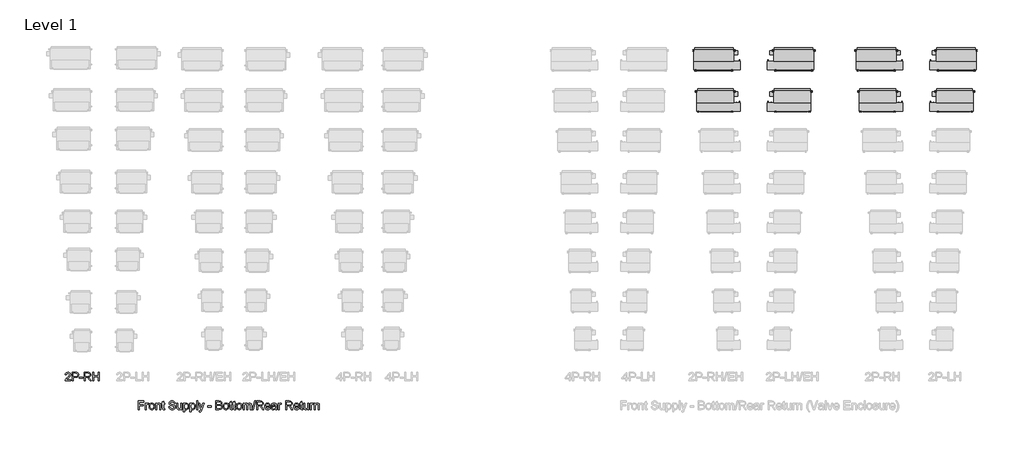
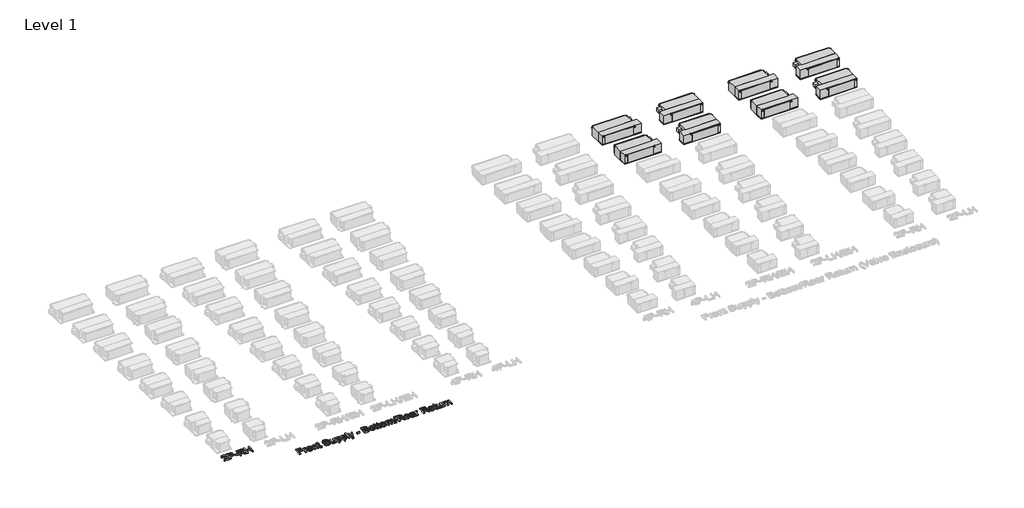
# One storey, part 2 of 5: 10 proxies.
"""IFC4 building model written with IfcOpenShell, lengths in millimetres."""

from ifc_helpers import new_model, si_unit, origin, origin_with_axes, place, context, project, spatial, polyline, outline, extrude, transform, mapped, element, save
from components import mechanical_equipment_6b4c8f92, mechanical_equipment_af64897e, mechanical_equipment_110eea27, mechanical_equipment_c8bb1e13

model = new_model("IFC4")

# Units and contexts
model_context = context("Model", 3, world=origin())
ifc_project = project(units=[si_unit("LENGTHUNIT", "METRE", prefix="MILLI")], contexts=[model_context])

# Site, building, storey
site = spatial("IfcSite", under=ifc_project)
building = spatial("IfcBuilding", under=site)
storey = spatial("IfcBuildingStorey", under=building, Name="Level 1", Elevation=0.0)

# Proxies
placement = place(None, origin())
mechanical_equipment_shape = mechanical_equipment_6b4c8f92(model_context)
element("IfcBuildingElementProxy", 1, Name="Concealed_High_Capacity_Horizontal_Fan_Coil_Unit_With_Plenum_-_42DCA_-_CARRIER_-_2-Pipe_Cool-EHeat_ValveEnclosure_RH_2022 : Size 18 - 277v/60Hz/1Ph - 6 Row 12.0kW", ObjectType="Concealed_High_Capacity_Horizontal_Fan_Coil_Unit_With_Plenum_-_42DCA_-_CARRIER_-_2-Pipe_Cool-EHeat_ValveEnclosure_RH_2022 : Size 18 - 277v/60Hz/1Ph - 6 Row 12.0kW", at=placement, inside=storey, context=model_context, shape_type="MappedRepresentation", body=[
    mapped(mechanical_equipment_shape, transform((-6820.3658953, 549.3431202, 0.0), x_axis=(1.0, 0.0, 0.0), y_axis=(0.0, 1.0, 0.0), z_axis=(0.0, 0.0, 1.0))),
])
mechanical_equipment_2_shape = mechanical_equipment_af64897e(model_context)
element("IfcBuildingElementProxy", 2, Name="Concealed_High_Capacity_Horizontal_Fan_Coil_Unit_With_Plenum_-_42DCA_-_CARRIER_-_2-Pipe_Cool-EHeat_ValveEnclosure_RH_2022 : Size 20 - 277v/60Hz/1Ph - 6 Row 14.0kW", ObjectType="Concealed_High_Capacity_Horizontal_Fan_Coil_Unit_With_Plenum_-_42DCA_-_CARRIER_-_2-Pipe_Cool-EHeat_ValveEnclosure_RH_2022 : Size 20 - 277v/60Hz/1Ph - 6 Row 14.0kW", at=placement, inside=storey, context=model_context, shape_type="MappedRepresentation", body=[
    mapped(mechanical_equipment_2_shape, transform((-6871.1658953, 2015.3332762, 0.0), x_axis=(1.0, 0.0, 0.0), y_axis=(0.0, 1.0, 0.0), z_axis=(0.0, 0.0, 1.0))),
])
mechanical_equipment_3_shape = mechanical_equipment_110eea27(model_context)
element("IfcBuildingElementProxy", 3, Name="Concealed_High_Capacity_Horizontal_Fan_Coil_Unit_With_Plenum_-_42DCA_-_CARRIER_-_2-Pipe_Cool-EHeat_ValveEnclosure_LH_2022 : Size 18 - 277v/60Hz/1Ph - 6 Row 12.0kW", ObjectType="Concealed_High_Capacity_Horizontal_Fan_Coil_Unit_With_Plenum_-_42DCA_-_CARRIER_-_2-Pipe_Cool-EHeat_ValveEnclosure_LH_2022 : Size 18 - 277v/60Hz/1Ph - 6 Row 12.0kW", at=placement, inside=storey, context=model_context, shape_type="MappedRepresentation", body=[
    mapped(mechanical_equipment_3_shape, transform((-4077.1658953, 549.3431202, 0.0), x_axis=(1.0, 0.0, 0.0), y_axis=(0.0, 1.0, 0.0), z_axis=(0.0, 0.0, 1.0))),
])
mechanical_equipment_4_shape = mechanical_equipment_c8bb1e13(model_context)
element("IfcBuildingElementProxy", 4, Name="Concealed_High_Capacity_Horizontal_Fan_Coil_Unit_With_Plenum_-_42DCA_-_CARRIER_-_2-Pipe_Cool-EHeat_ValveEnclosure_LH_2022 : Size 20 - 277v/60Hz/1Ph - 6 Row 14.0kW", ObjectType="Concealed_High_Capacity_Horizontal_Fan_Coil_Unit_With_Plenum_-_42DCA_-_CARRIER_-_2-Pipe_Cool-EHeat_ValveEnclosure_LH_2022 : Size 20 - 277v/60Hz/1Ph - 6 Row 14.0kW", at=placement, inside=storey, context=model_context, shape_type="MappedRepresentation", body=[
    mapped(mechanical_equipment_4_shape, transform((-4026.3658953, 2015.3332762, 0.0), x_axis=(1.0, 0.0, 0.0), y_axis=(0.0, 1.0, 0.0), z_axis=(0.0, 0.0, 1.0))),
])
element("IfcBuildingElementProxy", 5, Name="Concealed_High_Capacity_Horizontal_Fan_Coil_Unit_With_Plenum_-_42DCA_-_CARRIER_-_2-Pipe_Cool_ValveEnclosure_RH_2022 : Size 18 - 277v/60Hz/1Ph - 6 Row", ObjectType="Concealed_High_Capacity_Horizontal_Fan_Coil_Unit_With_Plenum_-_42DCA_-_CARRIER_-_2-Pipe_Cool_ValveEnclosure_RH_2022 : Size 18 - 277v/60Hz/1Ph - 6 Row", at=placement, inside=storey, context=model_context, shape_type="MappedRepresentation", body=[
    mapped(mechanical_equipment_shape, transform((-1029.1658953, 549.3431202, 0.0), x_axis=(1.0, 0.0, 0.0), y_axis=(0.0, 1.0, 0.0), z_axis=(0.0, 0.0, 1.0))),
])
element("IfcBuildingElementProxy", 6, Name="Concealed_High_Capacity_Horizontal_Fan_Coil_Unit_With_Plenum_-_42DCA_-_CARRIER_-_2-Pipe_Cool_ValveEnclosure_RH_2022 : Size 20 - 277v/60Hz/1Ph - 6 Row", ObjectType="Concealed_High_Capacity_Horizontal_Fan_Coil_Unit_With_Plenum_-_42DCA_-_CARRIER_-_2-Pipe_Cool_ValveEnclosure_RH_2022 : Size 20 - 277v/60Hz/1Ph - 6 Row", at=placement, inside=storey, context=model_context, shape_type="MappedRepresentation", body=[
    mapped(mechanical_equipment_2_shape, transform((-1079.9658953, 2015.3332762, 0.0), x_axis=(1.0, 0.0, 0.0), y_axis=(0.0, 1.0, 0.0), z_axis=(0.0, 0.0, 1.0))),
])
element("IfcBuildingElementProxy", 7, Name="Concealed_High_Capacity_Horizontal_Fan_Coil_Unit_With_Plenum_-_42DCA_-_CARRIER_-_2-Pipe_Cool_ValveEnclosure_LH_2022 : Size 18 - 277v/60Hz/1Ph - 6 Row", ObjectType="Concealed_High_Capacity_Horizontal_Fan_Coil_Unit_With_Plenum_-_42DCA_-_CARRIER_-_2-Pipe_Cool_ValveEnclosure_LH_2022 : Size 18 - 277v/60Hz/1Ph - 6 Row", at=placement, inside=storey, context=model_context, shape_type="MappedRepresentation", body=[
    mapped(mechanical_equipment_3_shape, transform((1714.0341047, 549.3431202, 0.0), x_axis=(1.0, 0.0, 0.0), y_axis=(0.0, 1.0, 0.0), z_axis=(0.0, 0.0, 1.0))),
])
element("IfcBuildingElementProxy", 8, Name="Concealed_High_Capacity_Horizontal_Fan_Coil_Unit_With_Plenum_-_42DCA_-_CARRIER_-_2-Pipe_Cool_ValveEnclosure_LH_2022 : Size 20 - 277v/60Hz/1Ph - 6 Row", ObjectType="Concealed_High_Capacity_Horizontal_Fan_Coil_Unit_With_Plenum_-_42DCA_-_CARRIER_-_2-Pipe_Cool_ValveEnclosure_LH_2022 : Size 20 - 277v/60Hz/1Ph - 6 Row", at=placement, inside=storey, context=model_context, shape_type="MappedRepresentation", body=[
    mapped(mechanical_equipment_4_shape, transform((1764.8341047, 2015.3332762, 0.0), x_axis=(1.0, 0.0, 0.0), y_axis=(0.0, 1.0, 0.0), z_axis=(0.0, 0.0, 1.0))),
])
element("IfcBuildingElementProxy", 9, Name="24\" Arial", ObjectType="24\" Arial", at=placement, inside=storey, context=model_context, shape_type="SweptSolid", body=[
    extrude(outline(polyline([(-29653.5391357, -9425.9108404), (-29653.5391357, -9463.9817271), (-29853.4112912, -9463.9817271), (-29849.3216451, -9437.7336353), (-29839.9340485, -9417.2203425), (-29826.1965557, -9397.3204967), (-29806.3245938, -9376.4911859), (-29778.5335901, -9353.1894981), (-29737.4512367, -9316.6987018), (-29712.8018247, -9289.7628059), (-29700.4771186, -9267.9017889), (-29696.3688833, -9246.6356295), (-29700.2447524, -9227.5723022), (-29711.8723596, -9211.7249238), (-29729.7459718, -9201.0453708), (-29752.3598554, -9197.4855198), (-29776.1076864, -9200.961719), (-29794.5575668, -9211.3903164), (-29806.4640136, -9227.9533828), (-29810.5815436, -9249.8329891), (-29848.6524303, -9245.0741283), (-29845.3783898, -9225.4205907), (-29839.4228428, -9208.2487246), (-29830.7857892, -9193.5585302), (-29819.4672291, -9181.3500073), (-29805.7274126, -9171.7532811), (-29789.8265899, -9164.8984766), (-29751.5419262, -9159.4146331), (-29731.1378456, -9160.9389557), (-29712.978423, -9165.5119235), (-29697.0636584, -9173.1335366), (-29683.3935518, -9183.8037949), (-29672.4142464, -9196.7326532), (-29664.5718853, -9211.1300662), (-29659.8664687, -9226.9960339), (-29658.2979965, -9244.3305563), (-29659.9896229, -9262.5387758), (-29665.0645018, -9280.4309772), (-29674.0710177, -9298.6299021), (-29687.557555, -9317.758292), (-29709.0560807, -9340.5952472), (-29742.0985617, -9369.9198682), (-29785.8949529, -9406.5407896), (-29803.0714663, -9425.9108404), (-29653.5391357, -9425.9108404)])), origin_with_axes(), (0.0, 0.0, 1.0), 50.8),
    extrude(outline(polyline([(-29601.1916664, -9463.9817271), (-29601.1916664, -9159.4146331), (-29488.3174357, -9159.4146331), (-29442.8108289, -9162.3145639), (-29422.5206078, -9167.7333449), (-29405.8181216, -9176.5539678), (-29392.3687629, -9189.1761026), (-29381.8379243, -9205.9994193), (-29375.0342405, -9225.8434972), (-29372.7663458, -9247.5279159), (-29374.2976394, -9266.2241045), (-29378.8915203, -9283.4238545), (-29386.5479883, -9299.1271659), (-29397.2670435, -9313.3340385), (-29411.9827982, -9325.1103602), (-29431.6293649, -9333.5220185), (-29456.2067433, -9338.5690135), (-29485.7149337, -9340.2513452), (-29563.1207796, -9340.2513452), (-29563.1207796, -9463.9817271), (-29601.1916664, -9463.9817271)]), holes=[polyline([(-29563.1207796, -9302.1804584), (-29483.4842177, -9302.1804584), (-29449.7260486, -9298.68567), (-29427.4188884, -9288.2013047), (-29414.9826465, -9271.377988), (-29410.8372326, -9248.8663455), (-29413.2817256, -9231.7641893), (-29420.6152045, -9217.3388924), (-29431.9267937, -9206.4827411), (-29446.3056173, -9200.0880218), (-29484.3765041, -9197.4855198), (-29563.1207796, -9197.4855198), (-29563.1207796, -9302.1804584)])]), origin_with_axes(), (0.0, 0.0, 1.0), 50.8),
    extrude(outline(polyline([(-29344.2131808, -9373.5633711), (-29344.2131808, -9335.4924843), (-29225.2416597, -9335.4924843), (-29225.2416597, -9373.5633711), (-29344.2131808, -9373.5633711)])), origin_with_axes(), (0.0, 0.0, 1.0), 50.8),
    extrude(outline(polyline([(-29177.6530512, -9463.9817271), (-29177.6530512, -9159.4146331), (-29046.412592, -9159.4146331), (-29011.1393949, -9161.4687507), (-28985.476866, -9167.6311037), (-28966.7202621, -9179.0077554), (-28952.1648401, -9196.7047692), (-28942.8237167, -9218.6494381), (-28939.710009, -9242.769055), (-28944.8685398, -9272.7721855), (-28960.3441322, -9297.6446692), (-28972.0670096, -9307.7804851), (-28986.6015187, -9315.8807726), (-29024.1054318, -9325.9747626), (-29002.4674864, -9342.2589896), (-28971.6092481, -9381.4452344), (-28920.82328, -9463.9817271), (-28965.0658144, -9463.9817271), (-29004.6982024, -9400.8524637), (-29033.3257247, -9359.0637169), (-29053.4393474, -9339.3218802), (-29071.5453258, -9332.0720531), (-29093.6294144, -9330.7336235), (-29139.5821645, -9330.7336235), (-29139.5821645, -9463.9817271), (-29177.6530512, -9463.9817271)]), holes=[polyline([(-29139.5821645, -9292.6627367), (-29054.3688124, -9292.6627367), (-29029.8959988, -9291.3150125), (-29010.9070286, -9287.2718397), (-28996.6118568, -9280.2636735), (-28986.220438, -9270.0209691), (-28979.8907813, -9257.6312005), (-28977.7808957, -9244.1818419), (-28981.8054792, -9225.611131), (-28993.8792297, -9210.6467443), (-29014.6527726, -9200.775826), (-29044.7767336, -9197.4855198), (-29139.5821645, -9197.4855198), (-29139.5821645, -9292.6627367)])]), origin_with_axes(), (0.0, 0.0, 1.0), 50.8),
    extrude(outline(polyline([(-28873.0859571, -9463.9817271), (-28873.0859571, -9159.4146331), (-28835.0150704, -9159.4146331), (-28835.0150704, -9283.145015), (-28673.2138017, -9283.145015), (-28673.2138017, -9159.4146331), (-28635.1429149, -9159.4146331), (-28635.1429149, -9463.9817271), (-28673.2138017, -9463.9817271), (-28673.2138017, -9321.2159018), (-28835.0150704, -9321.2159018), (-28835.0150704, -9463.9817271), (-28873.0859571, -9463.9817271)])), origin_with_axes(), (0.0, 0.0, 1.0), 50.8),
])
element("IfcBuildingElementProxy", 10, Name="24\" Arial", ObjectType="24\" Arial", at=placement, inside=storey, context=model_context, shape_type="SweptSolid", body=[
    extrude(outline(polyline([(-27246.9296608, -10483.9809348), (-27246.9296608, -10179.4138407), (-27042.2986445, -10179.4138407), (-27042.2986445, -10217.4847274), (-27208.8587741, -10217.4847274), (-27208.8587741, -10307.9030835), (-27066.0929487, -10307.9030835), (-27066.0929487, -10345.9739703), (-27208.8587741, -10345.9739703), (-27208.8587741, -10483.9809348), (-27246.9296608, -10483.9809348)])), origin_with_axes(), (0.0, 0.0, 1.0), 50.8),
    extrude(outline(polyline([(-26994.7100361, -10483.9809348), (-26994.7100361, -10260.314475), (-26961.3980102, -10260.314475), (-26961.3980102, -10293.4034294), (-26949.0918934, -10274.2192716), (-26937.7524203, -10262.9169771), (-26926.3757686, -10257.3959549), (-26913.9581161, -10255.5556142), (-26894.9970299, -10258.4927236), (-26875.738515, -10267.3040519), (-26888.4535963, -10301.434007), (-26901.8378924, -10295.5783775), (-26915.2221885, -10293.626501), (-26926.5895456, -10295.5040203), (-26936.7485981, -10301.1365782), (-26944.9557742, -10310.0966209), (-26950.4675017, -10321.9565944), (-26955.0962374, -10343.2227538), (-26956.6391493, -10366.4222004), (-26956.6391493, -10483.9809348), (-26994.7100361, -10483.9809348)])), origin_with_axes(), (0.0, 0.0, 1.0), 50.8),
    extrude(outline(polyline([(-26861.4619324, -10372.1477049), (-26859.4031674, -10343.1809279), (-26853.2268724, -10318.2201451), (-26842.9330475, -10297.2653565), (-26828.5216925, -10280.316562), (-26814.0127437, -10269.4836474), (-26797.9980616, -10261.7458512), (-26780.4776462, -10257.1031734), (-26761.4514975, -10255.5556142), (-26740.4479119, -10257.4401045), (-26721.4566181, -10263.0935754), (-26704.4776161, -10272.516027), (-26689.5109058, -10285.7074591), (-26677.2954119, -10302.2217286), (-26668.5700591, -10321.6126924), (-26663.3348475, -10343.8803503), (-26661.5897769, -10369.0247025), (-26664.6756008, -10407.4859645), (-26673.9330723, -10436.7641123), (-26689.0926465, -10458.6901919), (-26709.8847788, -10475.0952493), (-26734.5806641, -10485.328659), (-26761.4514975, -10488.7397956), (-26782.7618065, -10486.8622763), (-26801.9296986, -10481.2297183), (-26818.9551739, -10471.8421217), (-26833.8382324, -10458.6994865), (-26845.9236011, -10442.0248843), (-26854.5560074, -10422.0413866), (-26859.7354512, -10398.7489935), (-26861.4619324, -10372.1477049)]), holes=[polyline([(-26823.3910457, -10372.0733477), (-26818.9853815, -10406.5286156), (-26805.7683891, -10431.0757865), (-26785.8778379, -10445.7706282), (-26761.4514975, -10450.6689088), (-26737.1366928, -10445.7427443), (-26717.2833203, -10430.9642507), (-26704.0663278, -10406.091767), (-26699.6606637, -10370.8836325), (-26704.0942118, -10337.4321868), (-26717.3948561, -10313.2196233), (-26737.2761126, -10298.5247816), (-26761.4514975, -10293.626501), (-26785.8778379, -10298.5061923), (-26805.7683891, -10313.1452661), (-26818.9853815, -10337.6366691), (-26823.3910457, -10372.0733477)])]), origin_with_axes(), (0.0, 0.0, 1.0), 50.8),
    extrude(outline(polyline([(-26618.7600293, -10483.9809348), (-26618.7600293, -10260.314475), (-26580.6891426, -10260.314475), (-26580.6891426, -10291.5444993), (-26567.4628555, -10275.7993621), (-26551.5782985, -10264.5528355), (-26533.0354716, -10257.8049195), (-26511.8343747, -10255.5556142), (-26493.0684762, -10257.368071), (-26475.8826682, -10262.8054413), (-26461.5503178, -10271.1892157), (-26451.344792, -10281.8408847), (-26439.9309616, -10309.8363707), (-26437.9233172, -10346.6431851), (-26437.9233172, -10483.9809348), (-26475.994204, -10483.9809348), (-26475.994204, -10351.7738319), (-26480.3812788, -10318.09002), (-26486.4506853, -10308.0610925), (-26495.8847552, -10300.2814704), (-26507.9770949, -10295.2902433), (-26522.0213112, -10293.626501), (-26544.3191768, -10297.3629503), (-26563.3267362, -10308.5722983), (-26570.922789, -10317.7228813), (-26576.348541, -10330.228833), (-26580.6891426, -10365.3068424), (-26580.6891426, -10483.9809348), (-26618.7600293, -10483.9809348)])), origin_with_axes(), (0.0, 0.0, 1.0), 50.8),
    extrude(outline(polyline([(-26304.6752136, -10452.2304101), (-26299.9163527, -10485.0962928), (-26328.3951606, -10488.7397956), (-26346.6684427, -10487.1597051), (-26360.2943997, -10482.4194335), (-26369.9236572, -10475.1138386), (-26376.2068406, -10465.8377778), (-26379.6644505, -10449.9067475), (-26380.8169871, -10422.6362442), (-26380.8169871, -10298.3853618), (-26409.3701522, -10298.3853618), (-26409.3701522, -10260.314475), (-26380.8169871, -10260.314475), (-26380.8169871, -10205.9593613), (-26342.7461003, -10183.5778439), (-26342.7461003, -10260.314475), (-26304.6752136, -10260.314475), (-26304.6752136, -10298.3853618), (-26342.7461003, -10298.3853618), (-26342.7461003, -10421.5208862), (-26340.7384559, -10441.1511872), (-26334.2322009, -10448.1035854), (-26321.2568693, -10450.6689088), (-26304.6752136, -10452.2304101)])), origin_with_axes(), (0.0, 0.0, 1.0), 50.8),
    extrude(outline(polyline([(-26157.1505274, -10379.2859962), (-26119.0796406, -10379.2859962), (-26114.7111551, -10400.4127358), (-26106.8107025, -10417.3940615), (-26094.4859965, -10430.8713042), (-26076.8447506, -10441.4857946), (-26055.2811624, -10448.3731303), (-26031.1894294, -10450.6689088), (-26009.9790379, -10448.9308093), (-25991.408327, -10443.7165106), (-25976.3602885, -10435.4628613), (-25965.7179142, -10424.60671), (-25959.3882575, -10412.1425842), (-25957.2783719, -10399.0650116), (-25958.8584624, -10386.3220463), (-25963.598734, -10375.3078859), (-25973.2279915, -10365.9109947), (-25989.4750398, -10358.0198368), (-26044.9083329, -10343.483004), (-26081.296888, -10333.8630412), (-26104.5799865, -10324.7078109), (-26123.531778, -10311.899783), (-26136.9625474, -10296.3777174), (-26144.9652411, -10278.4762213), (-26147.6328057, -10258.5299022), (-26144.3332049, -10236.2320367), (-26134.4344026, -10215.4399044), (-26118.1966489, -10197.8172479), (-26095.880194, -10185.0278093), (-26069.0930125, -10177.2481872), (-26039.4430787, -10174.6549798), (-26007.320768, -10177.3690177), (-25979.2137461, -10185.5111311), (-25956.1258353, -10198.9140166), (-25939.0608577, -10217.4103702), (-25928.2604743, -10239.8476556), (-25923.966346, -10265.0733359), (-25962.0372327, -10265.0733359), (-25969.0268096, -10242.3572111), (-25983.6008209, -10225.9614483), (-26006.3727137, -10216.034762), (-26037.9559347, -10212.7258666), (-26070.2827277, -10215.9975834), (-26092.4597628, -10225.8127339), (-26105.2863799, -10240.2566202), (-26109.5619189, -10257.4145442), (-26106.531863, -10272.0443235), (-26097.4416952, -10283.8113505), (-26075.9524642, -10294.3328944), (-26035.2790754, -10305.0775099), (-25993.3044356, -10315.2830357), (-25967.9114516, -10324.1873105), (-25946.2084436, -10337.9991605), (-25931.0674587, -10355.0455487), (-25922.1724785, -10375.1405822), (-25919.2074851, -10398.0983679), (-25922.6186217, -10421.5673594), (-25932.8520315, -10443.6421534), (-25949.4894551, -10462.6404182), (-25972.1126334, -10476.8798221), (-25999.3180742, -10485.7748022), (-26029.7022854, -10488.7397956), (-26067.0017162, -10485.542436), (-26097.7019454, -10475.9503571), (-26122.1561698, -10459.9263803), (-26140.717586, -10437.4333271), (-26152.6333274, -10410.0326987), (-26157.1505274, -10379.2859962)])), origin_with_axes(), (0.0, 0.0, 1.0), 50.8),
    extrude(outline(polyline([(-25724.0941905, -10483.9809348), (-25724.0941905, -10445.538262), (-25737.8688619, -10464.4389329), (-25753.911428, -10477.9394122), (-25772.2218887, -10486.0396997), (-25792.800244, -10488.7397956), (-25811.3430709, -10486.843687), (-25828.6032361, -10481.1553611), (-25843.0843009, -10472.604283), (-25853.2898267, -10462.1199177), (-25860.1585731, -10449.3862471), (-25864.6292998, -10434.0872531), (-25866.8600158, -10398.6932256), (-25866.8600158, -10260.314475), (-25828.7891291, -10260.314475), (-25828.7891291, -10380.7731402), (-25826.4840559, -10419.5875989), (-25820.9351498, -10432.5350465), (-25811.4267227, -10442.378081), (-25798.590811, -10448.5962019), (-25783.0594507, -10450.6689088), (-25766.635804, -10448.5497286), (-25751.2717474, -10442.192188), (-25738.6031393, -10432.1818498), (-25730.2658382, -10419.1042771), (-25725.6371024, -10401.1934864), (-25724.0941905, -10376.6834941), (-25724.0941905, -10260.314475), (-25686.0233037, -10260.314475), (-25686.0233037, -10483.9809348), (-25724.0941905, -10483.9809348)])), origin_with_axes(), (0.0, 0.0, 1.0), 50.8),
    extrude(outline(polyline([(-25633.6758345, -10569.64043), (-25633.6758345, -10260.314475), (-25595.6049477, -10260.314475), (-25595.6049477, -10297.6417898), (-25583.1872952, -10279.229088), (-25569.2824986, -10266.0771581), (-25553.0726289, -10258.1860002), (-25533.7397567, -10255.5556142), (-25507.993576, -10259.2362956), (-25485.4819335, -10270.2783399), (-25467.1528835, -10288.0125323), (-25453.9544804, -10311.7696579), (-25445.9796706, -10339.8209119), (-25443.3214007, -10370.4374893), (-25446.3235726, -10402.9966485), (-25455.3300886, -10432.1167873), (-25470.0528143, -10456.3200561), (-25490.2036157, -10474.1286057), (-25513.6726072, -10485.0869981), (-25538.3499032, -10488.7397956), (-25555.8517293, -10486.2953026), (-25571.4760361, -10478.9618237), (-25584.8510375, -10467.8918955), (-25595.6049477, -10454.2380545), (-25595.6049477, -10569.64043), (-25633.6758345, -10569.64043)]), holes=[polyline([(-25595.6049477, -10373.9322777), (-25591.4874177, -10408.0622328), (-25579.1348277, -10431.9308943), (-25560.9080189, -10445.9844052), (-25539.1678324, -10450.6689088), (-25517.0744491, -10445.8171015), (-25498.3829078, -10431.2616795), (-25485.6399425, -10406.5193209), (-25481.3922874, -10371.1067041), (-25485.5377014, -10337.162642), (-25497.9739432, -10312.9593731), (-25516.172868, -10298.459719), (-25537.6063311, -10293.626501), (-25559.1234461, -10298.7664425), (-25578.0194697, -10314.186267), (-25591.2085782, -10339.4026526), (-25595.6049477, -10373.9322777)])]), origin_with_axes(), (0.0, 0.0, 1.0), 50.8),
    extrude(outline(polyline([(-25400.4916531, -10569.64043), (-25400.4916531, -10260.314475), (-25362.4207663, -10260.314475), (-25362.4207663, -10297.6417898), (-25350.0031138, -10279.229088), (-25336.0983173, -10266.0771581), (-25319.8884475, -10258.1860002), (-25300.5555753, -10255.5556142), (-25274.8093946, -10259.2362956), (-25252.2977521, -10270.2783399), (-25233.9687021, -10288.0125323), (-25220.770299, -10311.7696579), (-25212.7954892, -10339.8209119), (-25210.1372193, -10370.4374893), (-25213.1393912, -10402.9966485), (-25222.1459072, -10432.1167873), (-25236.8686329, -10456.3200561), (-25257.0194343, -10474.1286057), (-25280.4884258, -10485.0869981), (-25305.1657218, -10488.7397956), (-25322.6675479, -10486.2953026), (-25338.2918547, -10478.9618237), (-25351.6668561, -10467.8918955), (-25362.4207663, -10454.2380545), (-25362.4207663, -10569.64043), (-25400.4916531, -10569.64043)]), holes=[polyline([(-25362.4207663, -10373.9322777), (-25358.3032363, -10408.0622328), (-25345.9506463, -10431.9308943), (-25327.7238375, -10445.9844052), (-25305.983651, -10450.6689088), (-25283.8902677, -10445.8171015), (-25265.1987264, -10431.2616795), (-25252.4557611, -10406.5193209), (-25248.208106, -10371.1067041), (-25252.35352, -10337.162642), (-25264.7897618, -10312.9593731), (-25282.9886867, -10298.459719), (-25304.4221498, -10293.626501), (-25325.9392647, -10298.7664425), (-25344.8352883, -10314.186267), (-25358.0243968, -10339.4026526), (-25362.4207663, -10373.9322777)])]), origin_with_axes(), (0.0, 0.0, 1.0), 50.8),
    extrude(outline(polyline([(-25167.3074717, -10483.9809348), (-25167.3074717, -10179.4138407), (-25129.2365849, -10179.4138407), (-25129.2365849, -10483.9809348), (-25167.3074717, -10483.9809348)])), origin_with_axes(), (0.0, 0.0, 1.0), 50.8),
    extrude(outline(polyline([(-25072.1302548, -10569.64043), (-25076.8891156, -10532.98233), (-25057.5562434, -10536.328404), (-25039.4874437, -10532.1272222), (-25028.4082208, -10520.4159631), (-25017.9982127, -10492.3832984), (-25015.0239246, -10483.1630055), (-25095.924559, -10260.314475), (-25055.7716706, -10260.314475), (-25012.8675658, -10384.4910002), (-24997.9217685, -10434.1616103), (-24982.9759711, -10390.2908619), (-24938.8821511, -10260.314475), (-24899.0266915, -10260.314475), (-24976.8786807, -10489.3346532), (-24997.1038393, -10539.0052633), (-25007.4580795, -10554.8619363), (-25019.1879279, -10565.8482127), (-25032.8138849, -10572.2615213), (-25048.8564509, -10574.3992908), (-25072.1302548, -10569.64043)])), origin_with_axes(), (0.0, 0.0, 1.0), 50.8),
    extrude(outline(polyline([(-24767.5631607, -10393.5625787), (-24767.5631607, -10355.4916919), (-24648.5916396, -10355.4916919), (-24648.5916396, -10393.5625787), (-24767.5631607, -10393.5625787)])), origin_with_axes(), (0.0, 0.0, 1.0), 50.8),
    extrude(outline(polyline([(-24482.03151, -10483.9809348), (-24482.03151, -10179.4138407), (-24365.8112053, -10179.4138407), (-24333.8469037, -10181.6538514), (-24308.8907682, -10188.3738834), (-24289.7623783, -10199.7412404), (-24275.2813135, -10215.9232262), (-24266.1632617, -10234.9586696), (-24263.1239111, -10254.8863994), (-24265.6799399, -10273.224744), (-24273.3480262, -10290.4663199), (-24286.183938, -10305.551537), (-24304.2434431, -10317.4208052), (-24282.6705603, -10328.6859211), (-24266.7302354, -10345.8252559), (-24256.8872009, -10367.7048622), (-24253.6061895, -10393.1907927), (-24255.8462001, -10414.4290682), (-24262.5662321, -10434.1244317), (-24272.5951596, -10450.8733911), (-24284.7618565, -10463.2724544), (-24299.6611806, -10472.2510863), (-24317.8879895, -10478.7387521), (-24366.7034917, -10483.9809348), (-24482.03151, -10483.9809348)]), holes=[polyline([(-24443.9606232, -10303.1442227), (-24374.4366406, -10303.1442227), (-24333.837609, -10299.8725058), (-24319.626089, -10294.2306532), (-24309.4112686, -10285.7818163), (-24303.2489156, -10274.6561201), (-24301.1947979, -10260.9836899), (-24303.1094958, -10247.7109295), (-24308.8535896, -10236.1483848), (-24318.166829, -10227.1232796), (-24330.7889638, -10221.4628377), (-24379.7160018, -10217.4847274), (-24443.9606232, -10217.4847274), (-24443.9606232, -10303.1442227)]), polyline([(-24443.9606232, -10445.910048), (-24365.8855625, -10445.910048), (-24337.6298262, -10444.422904), (-24313.7239862, -10436.1320761), (-24297.8859025, -10419.2158129), (-24293.2292828, -10407.2628929), (-24291.6770762, -10393.5625787), (-24293.4988276, -10377.6501378), (-24298.9640819, -10363.9684128), (-24308.5096875, -10353.2702706), (-24322.5724931, -10346.3085777), (-24342.4909282, -10342.4884765), (-24369.6034225, -10341.2151094), (-24443.9606232, -10341.2151094), (-24443.9606232, -10445.910048)])]), origin_with_axes(), (0.0, 0.0, 1.0), 50.8),
    extrude(outline(polyline([(-24215.5353027, -10372.1477049), (-24213.4765377, -10343.1809279), (-24207.3002427, -10318.2201451), (-24197.0064177, -10297.2653565), (-24182.5950628, -10280.316562), (-24168.086114, -10269.4836474), (-24152.0714319, -10261.7458512), (-24134.5510165, -10257.1031734), (-24115.5248678, -10255.5556142), (-24094.5212822, -10257.4401045), (-24075.5299884, -10263.0935754), (-24058.5509864, -10272.516027), (-24043.5842761, -10285.7074591), (-24031.3687822, -10302.2217286), (-24022.6434294, -10321.6126924), (-24017.4082178, -10343.8803503), (-24015.6631472, -10369.0247025), (-24018.748971, -10407.4859645), (-24028.0064425, -10436.7641123), (-24043.1660168, -10458.6901919), (-24063.9581491, -10475.0952493), (-24088.6540344, -10485.328659), (-24115.5248678, -10488.7397956), (-24136.8351767, -10486.8622763), (-24156.0030689, -10481.2297183), (-24173.0285442, -10471.8421217), (-24187.9116026, -10458.6994865), (-24199.9969714, -10442.0248843), (-24208.6293777, -10422.0413866), (-24213.8088214, -10398.7489935), (-24215.5353027, -10372.1477049)]), holes=[polyline([(-24177.4644159, -10372.0733477), (-24173.0587518, -10406.5286156), (-24159.8417594, -10431.0757865), (-24139.9512082, -10445.7706282), (-24115.5248678, -10450.6689088), (-24091.2100631, -10445.7427443), (-24071.3566905, -10430.9642507), (-24058.1396981, -10406.091767), (-24053.734034, -10370.8836325), (-24058.1675821, -10337.4321868), (-24071.4682263, -10313.2196233), (-24091.3494829, -10298.5247816), (-24115.5248678, -10293.626501), (-24139.9512082, -10298.5061923), (-24159.8417594, -10313.1452661), (-24173.0587518, -10337.6366691), (-24177.4644159, -10372.0733477)])]), origin_with_axes(), (0.0, 0.0, 1.0), 50.8),
    extrude(outline(polyline([(-23891.9327653, -10452.2304101), (-23887.1739044, -10485.0962928), (-23915.6527123, -10488.7397956), (-23933.9259943, -10487.1597051), (-23947.5519514, -10482.4194335), (-23957.1812089, -10475.1138386), (-23963.4643923, -10465.8377778), (-23966.9220022, -10449.9067475), (-23968.0745388, -10422.6362442), (-23968.0745388, -10298.3853618), (-23996.6277038, -10298.3853618), (-23996.6277038, -10260.314475), (-23968.0745388, -10260.314475), (-23968.0745388, -10205.9593613), (-23930.003652, -10183.5778439), (-23930.003652, -10260.314475), (-23891.9327653, -10260.314475), (-23891.9327653, -10298.3853618), (-23930.003652, -10298.3853618), (-23930.003652, -10421.5208862), (-23927.9960076, -10441.1511872), (-23921.4897525, -10448.1035854), (-23908.514421, -10450.6689088), (-23891.9327653, -10452.2304101)])), origin_with_axes(), (0.0, 0.0, 1.0), 50.8),
    extrude(outline(polyline([(-23772.9612441, -10452.2304101), (-23768.2023833, -10485.0962928), (-23796.6811912, -10488.7397956), (-23814.9544732, -10487.1597051), (-23828.5804303, -10482.4194335), (-23838.2096877, -10475.1138386), (-23844.4928712, -10465.8377778), (-23847.950481, -10449.9067475), (-23849.1030176, -10422.6362442), (-23849.1030176, -10298.3853618), (-23877.6561827, -10298.3853618), (-23877.6561827, -10260.314475), (-23849.1030176, -10260.314475), (-23849.1030176, -10205.9593613), (-23811.0321309, -10183.5778439), (-23811.0321309, -10260.314475), (-23772.9612441, -10260.314475), (-23772.9612441, -10298.3853618), (-23811.0321309, -10298.3853618), (-23811.0321309, -10421.5208862), (-23809.0244865, -10441.1511872), (-23802.5182314, -10448.1035854), (-23789.5428999, -10450.6689088), (-23772.9612441, -10452.2304101)])), origin_with_axes(), (0.0, 0.0, 1.0), 50.8),
    extrude(outline(polyline([(-23744.4080791, -10372.1477049), (-23742.3493141, -10343.1809279), (-23736.1730191, -10318.2201451), (-23725.8791941, -10297.2653565), (-23711.4678392, -10280.316562), (-23696.9588904, -10269.4836474), (-23680.9442083, -10261.7458512), (-23663.4237928, -10257.1031734), (-23644.3976441, -10255.5556142), (-23623.3940586, -10257.4401045), (-23604.4027648, -10263.0935754), (-23587.4237627, -10272.516027), (-23572.4570524, -10285.7074591), (-23560.2415586, -10302.2217286), (-23551.5162058, -10321.6126924), (-23546.2809941, -10343.8803503), (-23544.5359236, -10369.0247025), (-23547.6217474, -10407.4859645), (-23556.8792189, -10436.7641123), (-23572.0387932, -10458.6901919), (-23592.8309254, -10475.0952493), (-23617.5268107, -10485.328659), (-23644.3976441, -10488.7397956), (-23665.7079531, -10486.8622763), (-23684.8758453, -10481.2297183), (-23701.9013205, -10471.8421217), (-23716.784379, -10458.6994865), (-23728.8697478, -10442.0248843), (-23737.502154, -10422.0413866), (-23742.6815978, -10398.7489935), (-23744.4080791, -10372.1477049)]), holes=[polyline([(-23706.3371923, -10372.0733477), (-23701.9315282, -10406.5286156), (-23688.7145357, -10431.0757865), (-23668.8239845, -10445.7706282), (-23644.3976441, -10450.6689088), (-23620.0828395, -10445.7427443), (-23600.2294669, -10430.9642507), (-23587.0124745, -10406.091767), (-23582.6068103, -10370.8836325), (-23587.0403584, -10337.4321868), (-23600.3410027, -10313.2196233), (-23620.2222592, -10298.5247816), (-23644.3976441, -10293.626501), (-23668.8239845, -10298.5061923), (-23688.7145357, -10313.1452661), (-23701.9315282, -10337.6366691), (-23706.3371923, -10372.0733477)])]), origin_with_axes(), (0.0, 0.0, 1.0), 50.8),
    extrude(outline(polyline([(-23501.706176, -10483.9809348), (-23501.706176, -10260.314475), (-23463.6352892, -10260.314475), (-23463.6352892, -10297.1212894), (-23452.1842803, -10280.2143209), (-23437.4615546, -10266.9694445), (-23419.9690231, -10258.4090718), (-23400.208597, -10255.5556142), (-23379.0353841, -10258.4648397), (-23362.0633531, -10267.1925161), (-23349.3854503, -10281.1623752), (-23341.0946225, -10299.7981486), (-23327.2177099, -10280.4420398), (-23311.3889208, -10266.6162478), (-23293.6082552, -10258.3207726), (-23273.875713, -10255.5556142), (-23245.2574854, -10260.156466), (-23224.0935672, -10273.9590214), (-23211.0159945, -10297.3350663), (-23206.6568036, -10330.6563869), (-23206.6568036, -10483.9809348), (-23244.7276904, -10483.9809348), (-23244.7276904, -10347.0149711), (-23248.2596574, -10315.2272678), (-23253.2230005, -10306.4624127), (-23261.0490959, -10299.575077), (-23271.115202, -10295.113645), (-23282.7985771, -10293.626501), (-23303.4234057, -10297.4373075), (-23320.2374277, -10308.8697271), (-23331.4188917, -10328.7045104), (-23335.1460464, -10357.722408), (-23335.1460464, -10483.9809348), (-23373.2169332, -10483.9809348), (-23373.2169332, -10342.7766106), (-23375.4197652, -10321.250201), (-23382.0282614, -10305.8954391), (-23393.6558687, -10296.6937355), (-23410.9160339, -10293.626501), (-23425.5829918, -10295.671324), (-23439.097413, -10301.805793), (-23450.2509931, -10311.8811937), (-23457.8354276, -10325.7488117), (-23462.1853238, -10344.9887373), (-23463.6352892, -10371.1810613), (-23463.6352892, -10483.9809348), (-23501.706176, -10483.9809348)])), origin_with_axes(), (0.0, 0.0, 1.0), 50.8),
    extrude(outline(polyline([(-23178.1036385, -10483.9809348), (-23092.4441433, -10179.4138407), (-23058.0911166, -10179.4138407), (-23143.7506118, -10483.9809348), (-23178.1036385, -10483.9809348)])), origin_with_axes(), (0.0, 0.0, 1.0), 50.8),
    extrude(outline(polyline([(-23025.8200915, -10483.9809348), (-23025.8200915, -10179.4138407), (-22894.5796323, -10179.4138407), (-22859.3064352, -10181.4679584), (-22833.6439063, -10187.6303114), (-22814.8873024, -10199.0069631), (-22800.3318804, -10216.7039768), (-22790.990757, -10238.6486457), (-22787.8770493, -10262.7682627), (-22793.0355801, -10292.7713932), (-22808.5111724, -10317.6438768), (-22820.2340499, -10327.7796927), (-22834.7685589, -10335.8799803), (-22872.272472, -10345.9739703), (-22850.6345266, -10362.2581972), (-22819.7762884, -10401.444442), (-22768.9903203, -10483.9809348), (-22813.2328547, -10483.9809348), (-22852.8652427, -10420.8516714), (-22881.4927649, -10379.0629246), (-22901.6063877, -10359.3210878), (-22919.7123661, -10352.0712607), (-22941.7964547, -10350.7328311), (-22987.7492047, -10350.7328311), (-22987.7492047, -10483.9809348), (-23025.8200915, -10483.9809348)]), holes=[polyline([(-22987.7492047, -10312.6619443), (-22902.5358527, -10312.6619443), (-22878.0630391, -10311.3142201), (-22859.0740689, -10307.2710473), (-22844.7788971, -10300.2628811), (-22834.3874783, -10290.0201767), (-22828.0578216, -10277.6304082), (-22825.947936, -10264.1810495), (-22829.9725195, -10245.6103386), (-22842.04627, -10230.645952), (-22862.8198129, -10220.7750336), (-22892.9437738, -10217.4847274), (-22987.7492047, -10217.4847274), (-22987.7492047, -10312.6619443)])]), origin_with_axes(), (0.0, 0.0, 1.0), 50.8),
    extrude(outline(polyline([(-22569.4155936, -10417.3568829), (-22532.0882788, -10422.1157438), (-22545.5376375, -10450.2413549), (-22566.9989846, -10471.2658534), (-22595.9889982, -10484.3713101), (-22632.0243566, -10488.7397956), (-22655.6467098, -10486.8553053), (-22676.6944449, -10481.2018344), (-22695.167562, -10471.7793829), (-22711.0660609, -10458.5879507), (-22723.8508521, -10441.9946766), (-22732.9828458, -10422.3666993), (-22738.4620421, -10399.7040187), (-22740.2884408, -10374.0066349), (-22738.4434528, -10347.4378776), (-22732.9084886, -10324.0200067), (-22723.6835484, -10303.7530222), (-22710.7686321, -10286.6369241), (-22694.9119591, -10273.038851), (-22676.8617486, -10263.3259417), (-22656.6180007, -10257.4981961), (-22634.1807154, -10255.5556142), (-22612.4660891, -10257.4935487), (-22592.8288172, -10263.3073524), (-22575.2688995, -10272.9970251), (-22559.7863361, -10286.5625669), (-22547.1479356, -10303.6414864), (-22538.1205068, -10323.8712923), (-22532.7040494, -10347.2519846), (-22530.8985636, -10373.7835633), (-22531.1216352, -10384.044857), (-22702.217554, -10384.044857), (-22695.6276471, -10412.5422542), (-22680.3193584, -10433.4923955), (-22658.2259752, -10446.3747805), (-22631.2807846, -10450.6689088), (-22611.0184474, -10448.6798537), (-22593.9534698, -10442.7126884), (-22580.0858519, -10432.3956268), (-22569.4155936, -10417.3568829)]), holes=[polyline([(-22702.217554, -10345.9739703), (-22568.9694504, -10345.9739703), (-22574.1186865, -10325.8603475), (-22584.2126765, -10311.4722291), (-22606.4083009, -10298.087933), (-22634.3294298, -10293.626501), (-22659.9919587, -10297.1863519), (-22681.2116448, -10307.8659049), (-22695.9622545, -10324.5126232), (-22702.217554, -10345.9739703)])]), origin_with_axes(), (0.0, 0.0, 1.0), 50.8),
    extrude(outline(polyline([(-22350.0618515, -10455.4277697), (-22368.2514818, -10471.0241925), (-22386.9802017, -10481.2297183), (-22406.6755652, -10486.8622763), (-22427.7651263, -10488.7397956), (-22459.5807135, -10484.2225957), (-22483.049705, -10470.6709958), (-22497.5214752, -10450.0926405), (-22502.3453986, -10424.4951742), (-22500.5236471, -10408.7128583), (-22495.0583929, -10394.3805079), (-22486.6281453, -10382.1115698), (-22475.9114137, -10372.5194909), (-22449.2543573, -10360.0274812), (-22416.3141174, -10354.3019767), (-22377.3881228, -10348.2790435), (-22350.2849231, -10341.2151094), (-22350.0618515, -10332.7383885), (-22352.6829429, -10315.7477682), (-22360.5462168, -10304.6313667), (-22378.1316948, -10296.3777174), (-22402.6323924, -10293.626501), (-22425.3113386, -10295.457547), (-22441.1494224, -10300.9506852), (-22451.9498058, -10311.1097378), (-22459.515651, -10326.9385269), (-22497.5865377, -10322.179666), (-22490.9780415, -10301.3596498), (-22481.1164178, -10285.0010657), (-22467.0814961, -10272.4904667), (-22447.9531063, -10263.2144059), (-22424.558472, -10257.4703121), (-22397.7248172, -10255.5556142), (-22371.9879311, -10257.2472405), (-22351.5861741, -10262.3221195), (-22336.2035282, -10269.9530272), (-22325.5239753, -10279.3127398), (-22318.4414519, -10290.8845792), (-22313.8498948, -10305.1518671), (-22311.9909648, -10338.463893), (-22311.9909648, -10385.8294298), (-22310.0576776, -10451.9701599), (-22302.4732431, -10483.9809348), (-22340.5441298, -10483.9809348), (-22346.6414203, -10470.745353), (-22350.0618515, -10455.4277697)]), holes=[polyline([(-22350.0618515, -10379.2859962), (-22411.4808993, -10390.9600767), (-22444.2352462, -10397.1317243), (-22459.0695078, -10407.1699464), (-22464.2745118, -10421.818315), (-22461.4396435, -10433.1391988), (-22452.9350387, -10442.4152596), (-22438.9465903, -10448.6054965), (-22419.6601914, -10450.6689088), (-22399.2119612, -10448.3917196), (-22381.1431614, -10441.5601518), (-22366.4947929, -10431.4940457), (-22356.3078564, -10419.5132417), (-22351.7906564, -10407.1699464), (-22350.2849231, -10390.0677903), (-22350.0618515, -10379.2859962)])]), origin_with_axes(), (0.0, 0.0, 1.0), 50.8),
    extrude(outline(polyline([(-22259.6434955, -10483.9809348), (-22259.6434955, -10260.314475), (-22226.3314696, -10260.314475), (-22226.3314696, -10293.4034294), (-22214.0253528, -10274.2192716), (-22202.6858797, -10262.9169771), (-22191.309228, -10257.3959549), (-22178.8915755, -10255.5556142), (-22159.9304893, -10258.4927236), (-22140.6719744, -10267.3040519), (-22153.3870557, -10301.434007), (-22166.7713518, -10295.5783775), (-22180.1556479, -10293.626501), (-22191.523005, -10295.5040203), (-22201.6820575, -10301.1365782), (-22209.8892336, -10310.0966209), (-22215.4009611, -10321.9565944), (-22220.0296968, -10343.2227538), (-22221.5726087, -10366.4222004), (-22221.5726087, -10483.9809348), (-22259.6434955, -10483.9809348)])), origin_with_axes(), (0.0, 0.0, 1.0), 50.8),
    extrude(outline(polyline([(-21993.1472882, -10483.9809348), (-21993.1472882, -10179.4138407), (-21861.9068289, -10179.4138407), (-21826.6336318, -10181.4679584), (-21800.971103, -10187.6303114), (-21782.2144991, -10199.0069631), (-21767.659077, -10216.7039768), (-21758.3179537, -10238.6486457), (-21755.2042459, -10262.7682627), (-21760.3627767, -10292.7713932), (-21775.8383691, -10317.6438768), (-21787.5612465, -10327.7796927), (-21802.0957556, -10335.8799803), (-21839.5996687, -10345.9739703), (-21817.9617233, -10362.2581972), (-21787.103485, -10401.444442), (-21736.3175169, -10483.9809348), (-21780.5600514, -10483.9809348), (-21820.1924393, -10420.8516714), (-21848.8199616, -10379.0629246), (-21868.9335844, -10359.3210878), (-21887.0395628, -10352.0712607), (-21909.1236514, -10350.7328311), (-21955.0764014, -10350.7328311), (-21955.0764014, -10483.9809348), (-21993.1472882, -10483.9809348)]), holes=[polyline([(-21955.0764014, -10312.6619443), (-21869.8630494, -10312.6619443), (-21845.3902357, -10311.3142201), (-21826.4012656, -10307.2710473), (-21812.1060938, -10300.2628811), (-21801.714675, -10290.0201767), (-21795.3850183, -10277.6304082), (-21793.2751327, -10264.1810495), (-21797.2997162, -10245.6103386), (-21809.3734666, -10230.645952), (-21830.1470096, -10220.7750336), (-21860.2709705, -10217.4847274), (-21955.0764014, -10217.4847274), (-21955.0764014, -10312.6619443)])]), origin_with_axes(), (0.0, 0.0, 1.0), 50.8),
    extrude(outline(polyline([(-21536.7427903, -10417.3568829), (-21499.4154755, -10422.1157438), (-21512.8648342, -10450.2413549), (-21534.3261812, -10471.2658534), (-21563.3161949, -10484.3713101), (-21599.3515533, -10488.7397956), (-21622.9739065, -10486.8553053), (-21644.0216416, -10481.2018344), (-21662.4947586, -10471.7793829), (-21678.3932576, -10458.5879507), (-21691.1780488, -10441.9946766), (-21700.3100425, -10422.3666993), (-21705.7892387, -10399.7040187), (-21707.6156375, -10374.0066349), (-21705.7706494, -10347.4378776), (-21700.2356853, -10324.0200067), (-21691.0107451, -10303.7530222), (-21678.0958288, -10286.6369241), (-21662.2391558, -10273.038851), (-21644.1889453, -10263.3259417), (-21623.9451974, -10257.4981961), (-21601.5079121, -10255.5556142), (-21579.7932858, -10257.4935487), (-21560.1560138, -10263.3073524), (-21542.5960962, -10272.9970251), (-21527.1135328, -10286.5625669), (-21514.4751323, -10303.6414864), (-21505.4477034, -10323.8712923), (-21500.0312461, -10347.2519846), (-21498.2257603, -10373.7835633), (-21498.4488319, -10384.044857), (-21669.5447507, -10384.044857), (-21662.9548438, -10412.5422542), (-21647.6465551, -10433.4923955), (-21625.5531719, -10446.3747805), (-21598.6079813, -10450.6689088), (-21578.3456441, -10448.6798537), (-21561.2806665, -10442.7126884), (-21547.4130486, -10432.3956268), (-21536.7427903, -10417.3568829)]), holes=[polyline([(-21669.5447507, -10345.9739703), (-21536.2966471, -10345.9739703), (-21541.4458832, -10325.8603475), (-21551.5398732, -10311.4722291), (-21573.7354976, -10298.087933), (-21601.6566265, -10293.626501), (-21627.3191554, -10297.1863519), (-21648.5388415, -10307.8659049), (-21663.2894512, -10324.5126232), (-21669.5447507, -10345.9739703)])]), origin_with_axes(), (0.0, 0.0, 1.0), 50.8),
    extrude(outline(polyline([(-21379.2542392, -10452.2304101), (-21374.4953783, -10485.0962928), (-21402.9741862, -10488.7397956), (-21421.2474683, -10487.1597051), (-21434.8734253, -10482.4194335), (-21444.5026828, -10475.1138386), (-21450.7858663, -10465.8377778), (-21454.2434761, -10449.9067475), (-21455.3960127, -10422.6362442), (-21455.3960127, -10298.3853618), (-21483.9491778, -10298.3853618), (-21483.9491778, -10260.314475), (-21455.3960127, -10260.314475), (-21455.3960127, -10205.9593613), (-21417.3251259, -10183.5778439), (-21417.3251259, -10260.314475), (-21379.2542392, -10260.314475), (-21379.2542392, -10298.3853618), (-21417.3251259, -10298.3853618), (-21417.3251259, -10421.5208862), (-21415.3174815, -10441.1511872), (-21408.8112265, -10448.1035854), (-21395.8358949, -10450.6689088), (-21379.2542392, -10452.2304101)])), origin_with_axes(), (0.0, 0.0, 1.0), 50.8),
    extrude(outline(polyline([(-21198.4175271, -10483.9809348), (-21198.4175271, -10445.538262), (-21212.1921985, -10464.4389329), (-21228.2347646, -10477.9394122), (-21246.5452252, -10486.0396997), (-21267.1235805, -10488.7397956), (-21285.6664075, -10486.843687), (-21302.9265727, -10481.1553611), (-21317.4076375, -10472.604283), (-21327.6131633, -10462.1199177), (-21334.4819097, -10449.3862471), (-21338.9526364, -10434.0872531), (-21341.1833524, -10398.6932256), (-21341.1833524, -10260.314475), (-21303.1124657, -10260.314475), (-21303.1124657, -10380.7731402), (-21300.8073924, -10419.5875989), (-21295.2584863, -10432.5350465), (-21285.7500593, -10442.378081), (-21272.9141475, -10448.5962019), (-21257.3827872, -10450.6689088), (-21240.9591405, -10448.5497286), (-21225.5950839, -10442.192188), (-21212.9264759, -10432.1818498), (-21204.5891747, -10419.1042771), (-21199.960439, -10401.1934864), (-21198.4175271, -10376.6834941), (-21198.4175271, -10260.314475), (-21160.3466403, -10260.314475), (-21160.3466403, -10483.9809348), (-21198.4175271, -10483.9809348)])), origin_with_axes(), (0.0, 0.0, 1.0), 50.8),
    extrude(outline(polyline([(-21107.999171, -10483.9809348), (-21107.999171, -10260.314475), (-21074.6871451, -10260.314475), (-21074.6871451, -10293.4034294), (-21062.3810284, -10274.2192716), (-21051.0415553, -10262.9169771), (-21039.6649036, -10257.3959549), (-21027.2472511, -10255.5556142), (-21008.2861649, -10258.4927236), (-20989.0276499, -10267.3040519), (-21001.7427312, -10301.434007), (-21015.1270274, -10295.5783775), (-21028.5113235, -10293.626501), (-21039.8786805, -10295.5040203), (-21050.0377331, -10301.1365782), (-21058.2449091, -10310.0966209), (-21063.7566366, -10321.9565944), (-21068.3853724, -10343.2227538), (-21069.9282843, -10366.4222004), (-21069.9282843, -10483.9809348), (-21107.999171, -10483.9809348)])), origin_with_axes(), (0.0, 0.0, 1.0), 50.8),
    extrude(outline(polyline([(-20965.2333457, -10483.9809348), (-20965.2333457, -10260.314475), (-20927.1624589, -10260.314475), (-20927.1624589, -10291.5444993), (-20913.9361719, -10275.7993621), (-20898.0516149, -10264.5528355), (-20879.5087879, -10257.8049195), (-20858.3076911, -10255.5556142), (-20839.5417926, -10257.368071), (-20822.3559845, -10262.8054413), (-20808.0236341, -10271.1892157), (-20797.8181083, -10281.8408847), (-20786.404278, -10309.8363707), (-20784.3966336, -10346.6431851), (-20784.3966336, -10483.9809348), (-20822.4675203, -10483.9809348), (-20822.4675203, -10351.7738319), (-20826.8545952, -10318.09002), (-20832.9240017, -10308.0610925), (-20842.3580715, -10300.2814704), (-20854.4504113, -10295.2902433), (-20868.4946276, -10293.626501), (-20890.7924931, -10297.3629503), (-20909.8000526, -10308.5722983), (-20917.3961053, -10317.7228813), (-20922.8218573, -10330.228833), (-20927.1624589, -10365.3068424), (-20927.1624589, -10483.9809348), (-20965.2333457, -10483.9809348)])), origin_with_axes(), (0.0, 0.0, 1.0), 50.8),
])

save(model, "model.ifc")
